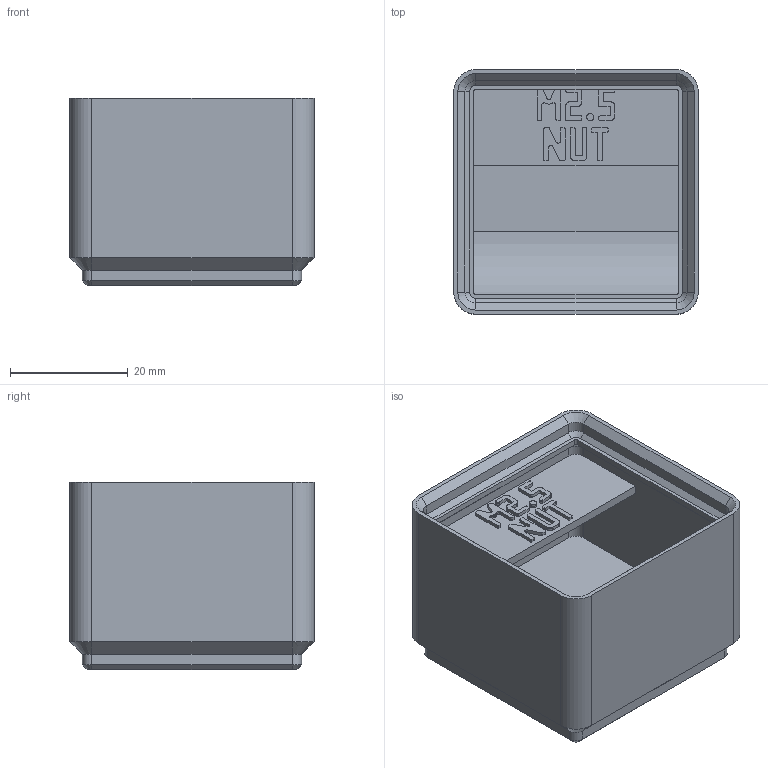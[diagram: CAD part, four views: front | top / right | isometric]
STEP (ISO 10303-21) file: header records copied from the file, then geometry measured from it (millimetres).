
FILE_DESCRIPTION(('Open CASCADE Model'),'2;1');
FILE_NAME('Open CASCADE Shape Model','2026-11-03T10:26:22',('Author'),( 'Open CASCADE'),'Open CASCADE STEP processor 8.0','build123d', 'Unknown');
FILE_SCHEMA(('AUTOMOTIVE_DESIGN { 1 0 10303 214 1 1 1 1 }'));
Length unit declared in the file: millimetre
Products named in the file (1): COMPOUND
Bounding box: 41.5 x 41.5 x 31.8 mm (x, y, z)
Volume: 24293.6 mm3; surface area: 12294.3 mm2
Topology: 1 solids, 1 shells, 699 faces, 2008 edges, 1320 vertices
Faces by surface type: plane 656, cylinder 23, cone 20
Entity records: 47409 total; most frequent: CARTESIAN_POINT 9829, DIRECTION 6056, LINE 4528, VECTOR 4528, ORIENTED_EDGE 4016, PCURVE 4016, DEFINITIONAL_REPRESENTATION 4016, EDGE_CURVE 2008
